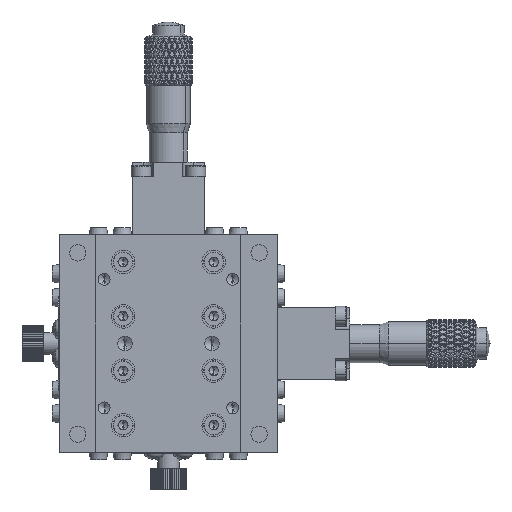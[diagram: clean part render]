
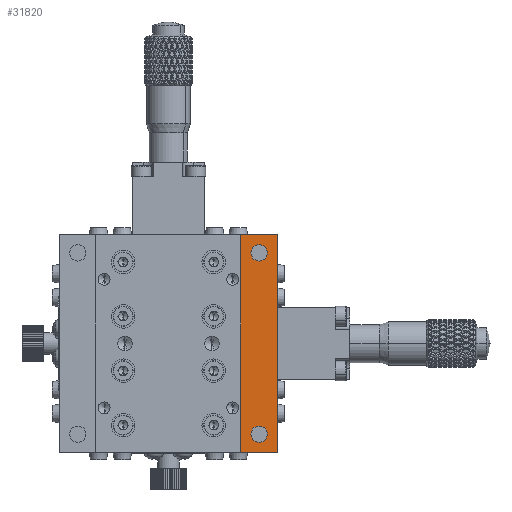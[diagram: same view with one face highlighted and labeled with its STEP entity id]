
A CAD part, front view. The second image highlights one B-rep face of the part: STEP entity #31820.
In plain terms, the highlighted planar face has unit normal (0, -1, 0).
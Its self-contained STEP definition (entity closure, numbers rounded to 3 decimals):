
#1785 = ORIENTED_EDGE ( 'NONE', *, *, #46483, .F. ) ;
#3565 = CARTESIAN_POINT ( 'NONE',  ( 25., 0., -25. ) ) ;
#4454 = AXIS2_PLACEMENT_3D ( 'NONE', #3565, #44222, #9446 ) ;
#6868 = VERTEX_POINT ( 'NONE', #37661 ) ;
#7562 = LINE ( 'NONE', #58939, #52164 ) ;
#9446 = DIRECTION ( 'NONE',  ( 0., 0., 1. ) ) ;
#9986 = VERTEX_POINT ( 'NONE', #36966 ) ;
#10204 = VECTOR ( 'NONE', #66622, 1000. ) ;
#10569 = EDGE_LOOP ( 'NONE', ( #40520, #1785, #74638, #19308 ) ) ;
#13985 = EDGE_CURVE ( 'NONE', #28843, #55819, #30664, .T. ) ;
#15388 = VECTOR ( 'NONE', #38391, 1000. ) ;
#16066 = DIRECTION ( 'NONE',  ( 0., 0., 1. ) ) ;
#19308 = ORIENTED_EDGE ( 'NONE', *, *, #56746, .F. ) ;
#20440 = CARTESIAN_POINT ( 'NONE',  ( 25., 0., 25. ) ) ;
#21853 = ORIENTED_EDGE ( 'NONE', *, *, #13985, .T. ) ;
#23461 = CARTESIAN_POINT ( 'NONE',  ( 25., 0., 25. ) ) ;
#24086 = DIRECTION ( 'NONE',  ( 1., 0., 0. ) ) ;
#25172 = CARTESIAN_POINT ( 'NONE',  ( 20., 0., -30. ) ) ;
#25934 = CARTESIAN_POINT ( 'NONE',  ( 20., 0., 30. ) ) ;
#26262 = DIRECTION ( 'NONE',  ( 0., 0., 1. ) ) ;
#26430 = CIRCLE ( 'NONE', #59625, 2.25 ) ;
#26959 = CARTESIAN_POINT ( 'NONE',  ( 20., 0., 30. ) ) ;
#27062 = VECTOR ( 'NONE', #68416, 1000. ) ;
#27624 = DIRECTION ( 'NONE',  ( 0., 1., 0. ) ) ;
#28381 = CIRCLE ( 'NONE', #4454, 2.25 ) ;
#28843 = VERTEX_POINT ( 'NONE', #38807 ) ;
#29269 = DIRECTION ( 'NONE',  ( 0., 0., 1. ) ) ;
#29558 = VERTEX_POINT ( 'NONE', #64414 ) ;
#30344 = EDGE_LOOP ( 'NONE', ( #21853, #45994 ) ) ;
#30664 = CIRCLE ( 'NONE', #70565, 2.25 ) ;
#31820 = ADVANCED_FACE ( 'NONE', ( #47625, #63084, #33956 ), #50629, .F. ) ;
#31876 = CARTESIAN_POINT ( 'NONE',  ( 25., 0., 22.75 ) ) ;
#33956 = FACE_OUTER_BOUND ( 'NONE', #10569, .T. ) ;
#35468 = EDGE_CURVE ( 'NONE', #58090, #29558, #7562, .T. ) ;
#35871 = ORIENTED_EDGE ( 'NONE', *, *, #41758, .T. ) ;
#36966 = CARTESIAN_POINT ( 'NONE',  ( 30., 0., -30. ) ) ;
#37661 = CARTESIAN_POINT ( 'NONE',  ( 25., 0., -27.25 ) ) ;
#38391 = DIRECTION ( 'NONE',  ( 1., 0., 0. ) ) ;
#38807 = CARTESIAN_POINT ( 'NONE',  ( 25., 0., 27.25 ) ) ;
#39126 = EDGE_CURVE ( 'NONE', #69045, #9986, #46333, .T. ) ;
#39880 = CARTESIAN_POINT ( 'NONE',  ( 30., 0., 30. ) ) ;
#40520 = ORIENTED_EDGE ( 'NONE', *, *, #35468, .F. ) ;
#41758 = EDGE_CURVE ( 'NONE', #66802, #6868, #28381, .T. ) ;
#42506 = LINE ( 'NONE', #39880, #27062 ) ;
#44222 = DIRECTION ( 'NONE',  ( 0., 1., 0. ) ) ;
#45027 = CARTESIAN_POINT ( 'NONE',  ( -30., 0., 30. ) ) ;
#45345 = ORIENTED_EDGE ( 'NONE', *, *, #67640, .T. ) ;
#45994 = ORIENTED_EDGE ( 'NONE', *, *, #56426, .T. ) ;
#46133 = AXIS2_PLACEMENT_3D ( 'NONE', #45027, #50876, #16066 ) ;
#46333 = LINE ( 'NONE', #73257, #15388 ) ;
#46483 = EDGE_CURVE ( 'NONE', #69045, #58090, #71972, .T. ) ;
#47625 = FACE_BOUND ( 'NONE', #30344, .T. ) ;
#50629 = PLANE ( 'NONE',  #46133 ) ;
#50876 = DIRECTION ( 'NONE',  ( 0., 1., 0. ) ) ;
#52164 = VECTOR ( 'NONE', #24086, 1000. ) ;
#55819 = VERTEX_POINT ( 'NONE', #31876 ) ;
#56426 = EDGE_CURVE ( 'NONE', #55819, #28843, #58987, .T. ) ;
#56746 = EDGE_CURVE ( 'NONE', #29558, #9986, #42506, .T. ) ;
#58090 = VERTEX_POINT ( 'NONE', #26959 ) ;
#58939 = CARTESIAN_POINT ( 'NONE',  ( -30., 0., 30. ) ) ;
#58987 = CIRCLE ( 'NONE', #72835, 2.25 ) ;
#59625 = AXIS2_PLACEMENT_3D ( 'NONE', #62481, #27624, #68350 ) ;
#61126 = DIRECTION ( 'NONE',  ( 0., 1., 0. ) ) ;
#62155 = EDGE_LOOP ( 'NONE', ( #35871, #45345 ) ) ;
#62481 = CARTESIAN_POINT ( 'NONE',  ( 25., 0., -25. ) ) ;
#63084 = FACE_BOUND ( 'NONE', #62155, .T. ) ;
#64134 = DIRECTION ( 'NONE',  ( 0., 1., 0. ) ) ;
#64414 = CARTESIAN_POINT ( 'NONE',  ( 30., 0., 30. ) ) ;
#66622 = DIRECTION ( 'NONE',  ( 0., 0., 1. ) ) ;
#66802 = VERTEX_POINT ( 'NONE', #70015 ) ;
#67640 = EDGE_CURVE ( 'NONE', #6868, #66802, #26430, .T. ) ;
#68350 = DIRECTION ( 'NONE',  ( 0., 0., 1. ) ) ;
#68416 = DIRECTION ( 'NONE',  ( 0., 0., -1. ) ) ;
#69045 = VERTEX_POINT ( 'NONE', #25172 ) ;
#70015 = CARTESIAN_POINT ( 'NONE',  ( 25., 0., -22.75 ) ) ;
#70565 = AXIS2_PLACEMENT_3D ( 'NONE', #20440, #61126, #26262 ) ;
#71972 = LINE ( 'NONE', #25934, #10204 ) ;
#72835 = AXIS2_PLACEMENT_3D ( 'NONE', #23461, #64134, #29269 ) ;
#73257 = CARTESIAN_POINT ( 'NONE',  ( -30., 0., -30. ) ) ;
#74638 = ORIENTED_EDGE ( 'NONE', *, *, #39126, .T. ) ;
